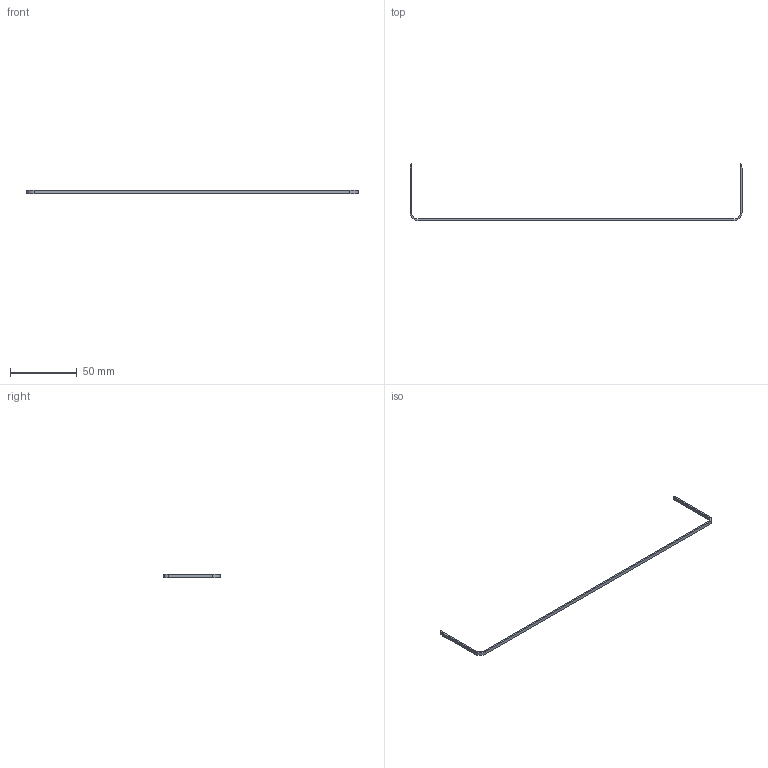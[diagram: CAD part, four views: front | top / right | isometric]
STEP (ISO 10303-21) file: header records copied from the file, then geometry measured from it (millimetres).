
FILE_DESCRIPTION(('Open CASCADE Model'),'2;1');
FILE_NAME('Open CASCADE Shape Model','2026-11-07T14:08:16',('Author'),( 'Open CASCADE'),'Open CASCADE STEP processor 7.9','Open CASCADE 7.9' ,'Unknown');
FILE_SCHEMA(('AUTOMOTIVE_DESIGN { 1 0 10303 214 1 1 1 1 }'));
Length unit declared in the file: millimetre
Products named in the file (1): Open CASCADE STEP translator 7.9 27
Bounding box: 248.1 x 42.67 x 2.5 mm (x, y, z)
Volume: 972.2 mm3; surface area: 2411.2 mm2
Topology: 1 solids, 1 shells, 16 faces, 42 edges, 28 vertices
Faces by surface type: plane 8, cylinder 8
Entity records: 1054 total; most frequent: CARTESIAN_POINT 211, DIRECTION 156, ORIENTED_EDGE 84, PCURVE 84, DEFINITIONAL_REPRESENTATION 84, LINE 78, VECTOR 78, EDGE_CURVE 42
